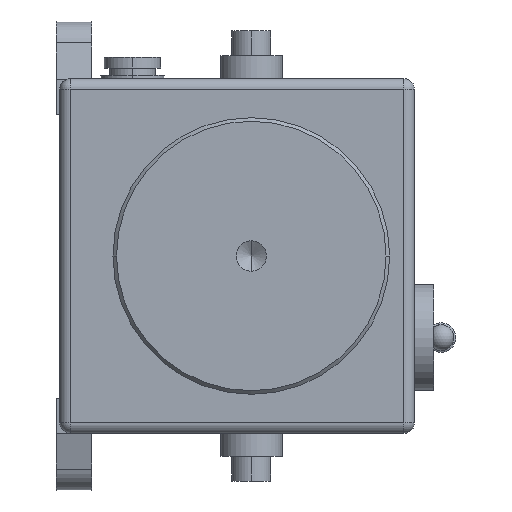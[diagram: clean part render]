
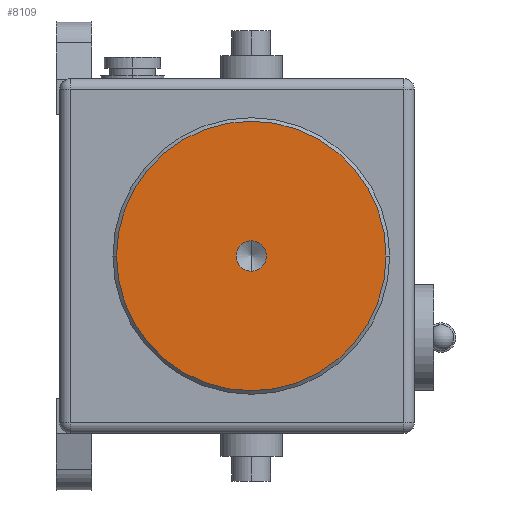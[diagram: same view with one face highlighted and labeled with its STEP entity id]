
A CAD part, front view. The second image highlights one B-rep face of the part: STEP entity #8109.
In plain terms, the highlighted planar face has unit normal (0, -1, 0).
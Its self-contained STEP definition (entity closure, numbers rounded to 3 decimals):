
#1143=CARTESIAN_POINT('',(-34.,-184.234,0.0));
#1144=VERTEX_POINT('',#1143);
#1152=CARTESIAN_POINT('',(42.,-184.234,0.));
#1153=VERTEX_POINT('',#1152);
#1160=CARTESIAN_POINT('',(4.,-184.234,0.0));
#1161=DIRECTION('',(0.0,1.0,0.0));
#1162=DIRECTION('',(-1.0,0.0,0.0));
#1163=AXIS2_PLACEMENT_3D('',#1160,#1161,#1162);
#1164=CIRCLE('',#1163,38.);
#1165=EDGE_CURVE('',#1153,#1144,#1164,.T.);
#1301=CARTESIAN_POINT('',(4.0,-184.234,-4.285));
#1302=VERTEX_POINT('',#1301);
#1311=CARTESIAN_POINT('',(4.,-184.234,4.285));
#1312=VERTEX_POINT('',#1311);
#1313=CARTESIAN_POINT('',(4.0,-184.234,0.0));
#1314=DIRECTION('',(0.0,1.0,0.0));
#1315=DIRECTION('',(0.0,0.0,-1.0));
#1316=AXIS2_PLACEMENT_3D('',#1313,#1314,#1315);
#1317=CIRCLE('',#1316,4.285);
#1318=EDGE_CURVE('',#1312,#1302,#1317,.T.);
#7976=CARTESIAN_POINT('',(4.0,-184.234,0.0));
#7977=DIRECTION('',(0.0,1.0,0.0));
#7978=DIRECTION('',(0.0,0.0,-1.0));
#7979=AXIS2_PLACEMENT_3D('',#7976,#7977,#7978);
#7980=CIRCLE('',#7979,4.285);
#7981=EDGE_CURVE('',#1302,#1312,#7980,.T.);
#8090=CARTESIAN_POINT('',(-15.,-184.234,0.0));
#8091=DIRECTION('',(0.0,-1.0,0.0));
#8092=DIRECTION('',(0.0,0.0,-1.0));
#8093=AXIS2_PLACEMENT_3D('',#8090,#8091,#8092);
#8094=PLANE('',#8093);
#8095=CARTESIAN_POINT('',(4.,-184.234,0.0));
#8096=DIRECTION('',(0.0,1.0,0.0));
#8097=DIRECTION('',(-1.0,0.0,0.0));
#8098=AXIS2_PLACEMENT_3D('',#8095,#8096,#8097);
#8099=CIRCLE('',#8098,38.);
#8100=EDGE_CURVE('',#1144,#1153,#8099,.T.);
#8101=ORIENTED_EDGE('',*,*,#8100,.F.);
#8102=ORIENTED_EDGE('',*,*,#1165,.F.);
#8103=EDGE_LOOP('',(#8101,#8102));
#8104=FACE_OUTER_BOUND('',#8103,.T.);
#8105=ORIENTED_EDGE('',*,*,#7981,.T.);
#8106=ORIENTED_EDGE('',*,*,#1318,.T.);
#8107=EDGE_LOOP('',(#8105,#8106));
#8108=FACE_BOUND('',#8107,.T.);
#8109=ADVANCED_FACE('',(#8104,#8108),#8094,.T.);
